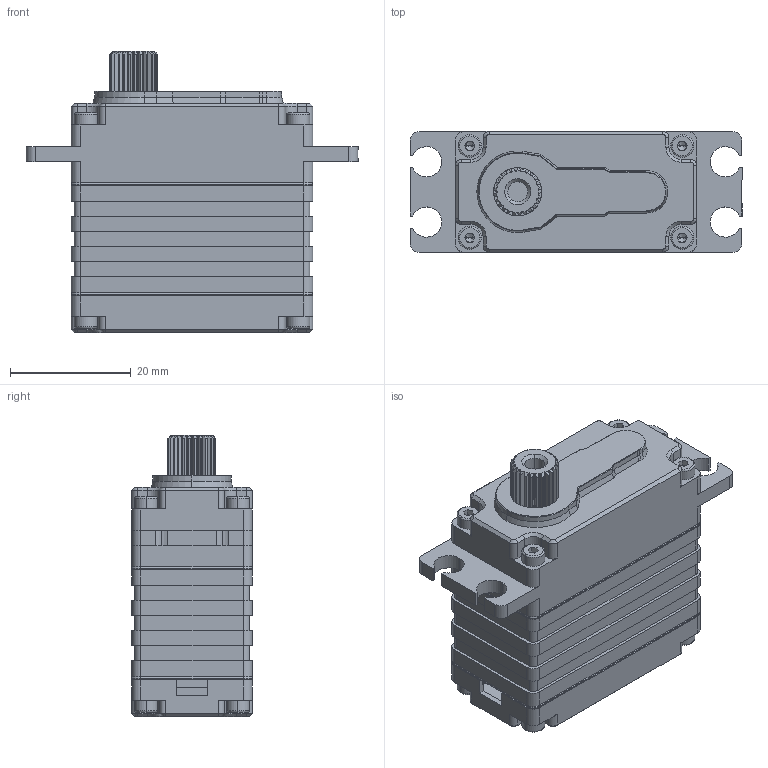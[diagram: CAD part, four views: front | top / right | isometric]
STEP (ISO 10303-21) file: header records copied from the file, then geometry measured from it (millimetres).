
FILE_DESCRIPTION (( 'STEP AP214' ), '1' );
FILE_NAME ('SV6010-12_DM_202402.STEP', '2024-02-27T03:59:31', ( '' ), ( '' ), 'SwSTEP 2.0', 'SolidWorks 2016', '' );
FILE_SCHEMA (( 'AUTOMOTIVE_DESIGN' ));
Length unit declared in the file: millimetre
Products named in the file (1): SV6010-12_DM_202402
Bounding box: 55 x 20 x 46.6 mm (x, y, z)
Surface area: 9294.2 mm2 (no closed solid volume)
Topology: 0 solids, 15 shells, 579 faces, 1706 edges, 1112 vertices
Faces by surface type: plane 291, cylinder 174, cone 82, torus 32
Entity records: 25544 total; most frequent: CARTESIAN_POINT 3547, DIRECTION 3403, ORIENTED_EDGE 3095, EDGE_CURVE 1690, AXIS2_PLACEMENT_3D 1188, VERTEX_POINT 1112, VECTOR 1027, LINE 1027
